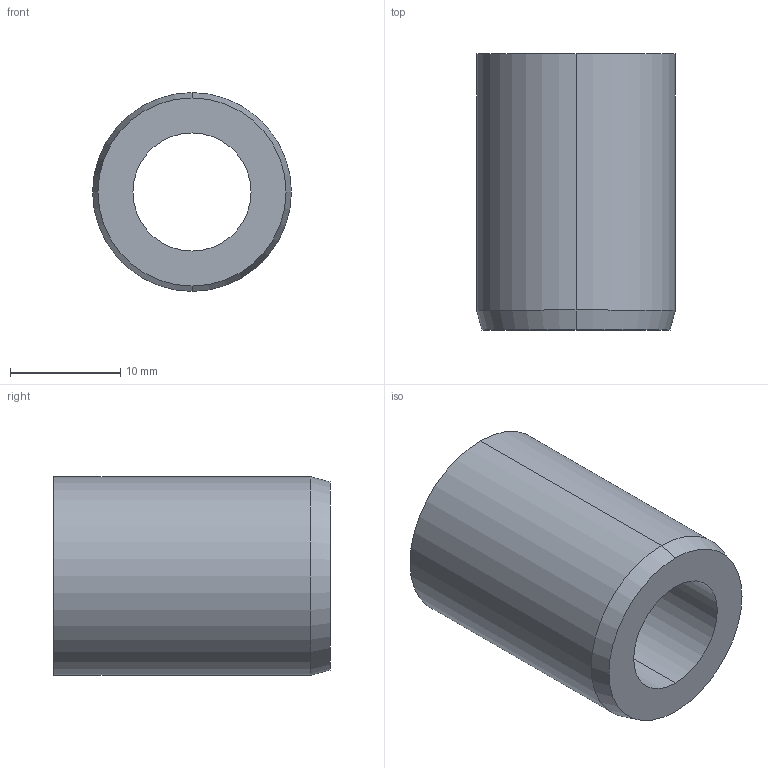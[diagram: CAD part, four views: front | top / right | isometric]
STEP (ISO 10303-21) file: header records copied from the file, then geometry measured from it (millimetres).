
FILE_DESCRIPTION (( 'STEP AP214' ), '1' );
FILE_NAME ('179-B10,7-25-A.step', '2024-10-17T06:02:14', ( '' ), ( '' ), 'SwSTEP 2.0', 'SolidWorks 2022', '' );
FILE_SCHEMA (( 'AUTOMOTIVE_DESIGN' ));
Length unit declared in the file: millimetre
Products named in the file (1): 179-B10,7-25-A
Bounding box: 18 x 25 x 18 mm (x, y, z)
Volume: 4087.5 mm3; surface area: 2549.8 mm2
Topology: 1 solids, 1 shells, 10 faces, 20 edges, 12 vertices
Faces by surface type: cylinder 4, cone 2, torus 2, plane 2
Entity records: 414 total; most frequent: DIRECTION 56, CARTESIAN_POINT 43, ORIENTED_EDGE 40, AXIS2_PLACEMENT_3D 25, EDGE_CURVE 20, CIRCLE 14, UNCERTAINTY_MEASURE_WITH_UNIT 13, SURFACE_SIDE_STYLE 12
